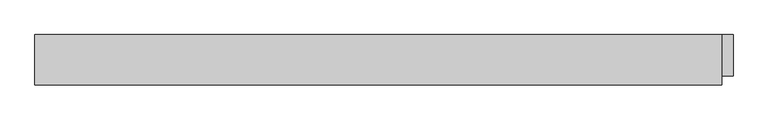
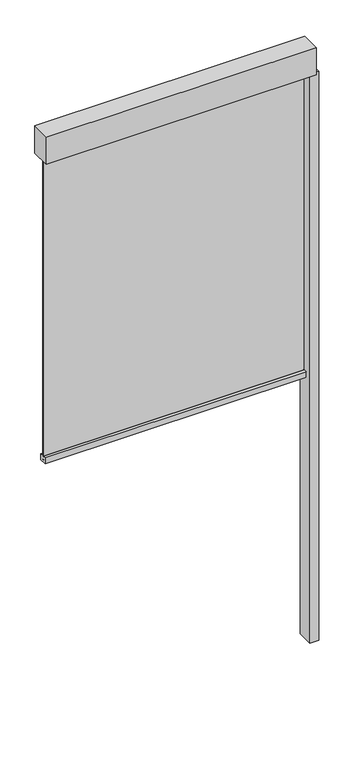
"""IFC4 building model written with IfcOpenShell, lengths in millimetres: proxy geometry, Renson_Fixscreen_Minimal_CW50_Middle : For curtain wall - Middle element - Access downwards - Fabric close to the window."""

import ifcopenshell
import ifcopenshell.guid

model = None  # the IFC model being written
_history = None  # IfcOwnerHistory: only IFC2X3 demands one
_inside = {}  # id of a spatial element -> (the spatial element, [elements in it])
_under = {}  # id of a project, library or spatial element -> (it, [spatial elements below it])
_declared = {}  # id of a project -> (the project, [libraries it declares])
_typed = {}  # id of a type object -> (the type object, [elements of that type])
_made_of = {}  # id of a material, layer set ... -> (it, [elements and type objects made of it])


def new_model(schema):
    """Start an empty IFC model of exactly this schema.

    Asked for "IFC4X3", IfcOpenShell would pick the latest addendum, in which some entities
    have other attributes; the version numbers below select the first issue.
    IFC2X3 requires an IfcOwnerHistory on every rooted entity: one is made here for all.
    """
    global model, _history
    if schema == "IFC4X3":
        model = ifcopenshell.file(schema_version=(4, 3, 0, 0))
    else:
        model = ifcopenshell.file(schema=schema)
    _inside.clear()
    _under.clear()
    _declared.clear()
    _typed.clear()
    _made_of.clear()
    _history = None
    if model.schema == "IFC2X3":
        org = make("IfcOrganization", Name="unknown")
        user = make(
            "IfcPersonAndOrganization",
            ThePerson=make("IfcPerson", FamilyName="unknown"),
            TheOrganization=org,
        )
        app = make(
            "IfcApplication",
            ApplicationDeveloper=org,
            Version="unknown",
            ApplicationFullName="unknown",
            ApplicationIdentifier="unknown",
        )
        _history = make(
            "IfcOwnerHistory",
            OwningUser=user,
            OwningApplication=app,
            ChangeAction="ADDED",
            CreationDate=0,
        )
    return model


def make(cls, **values):
    """One entity of the class cls with the attributes given. An attribute that is None is left unset."""
    return model.create_entity(
        cls, **{name: value for name, value in values.items() if value is not None}
    )


def rooted(cls, **values):
    """An entity with a GlobalId (a new one), such as an element, a storey or a relation."""
    return make(cls, GlobalId=ifcopenshell.guid.new(), OwnerHistory=_history, **values)


def si_unit(unit_type, name, prefix=None):
    """IfcSIUnit, for example si_unit("LENGTHUNIT", "METRE", prefix="MILLI")."""
    return make("IfcSIUnit", UnitType=unit_type, Prefix=prefix, Name=name)


def assignment(units):
    """IfcUnitAssignment: the units of a project."""
    return None if units is None else make("IfcUnitAssignment", Units=units)


def point(xyz):
    """IfcCartesianPoint."""
    return None if xyz is None else make("IfcCartesianPoint", Coordinates=xyz)


def direction(xyz):
    """IfcDirection."""
    return None if xyz is None else make("IfcDirection", DirectionRatios=xyz)


def frame(location, z_axis=None, x_axis=None):
    """IfcAxis2Placement3D, a coordinate frame: its origin and axes. An axis left out is left unset."""
    return make(
        "IfcAxis2Placement3D",
        Location=point(location),
        Axis=direction(z_axis),
        RefDirection=direction(x_axis),
    )


def frame_2d(location, x_axis=None):
    """IfcAxis2Placement2D, a coordinate frame in the plane: its origin and x axis."""
    return make(
        "IfcAxis2Placement2D", Location=point(location), RefDirection=direction(x_axis)
    )


def origin():
    """The frame at (0, 0, 0) with its axes left unset."""
    return frame((0.0, 0.0, 0.0))


def origin_with_axes():
    """The frame at (0, 0, 0) with the z axis (0, 0, 1) and the x axis (1, 0, 0) written out."""
    return frame((0.0, 0.0, 0.0), z_axis=(0.0, 0.0, 1.0), x_axis=(1.0, 0.0, 0.0))


def place(relative_to, where):
    """IfcLocalPlacement: puts the frame where relative to a parent placement (None: the world)."""
    return make(
        "IfcLocalPlacement", PlacementRelTo=relative_to, RelativePlacement=where
    )


def context(
    kind, dimensions, precision=None, world=None, true_north=None, identifier=None
):
    """IfcGeometricRepresentationContext, for example the 3D "Model" context."""
    return make(
        "IfcGeometricRepresentationContext",
        ContextIdentifier=identifier,
        ContextType=kind,
        CoordinateSpaceDimension=dimensions,
        Precision=precision,
        WorldCoordinateSystem=world,
        TrueNorth=true_north,
    )


def project(units=None, contexts=None):
    """IfcProject with its units and contexts."""
    return rooted(
        "IfcProject",
        Name="project",
        RepresentationContexts=contexts,
        UnitsInContext=assignment(units),
    )


def spatial(cls, under=None, at=None, **own):
    """A site, building, storey or space (cls), placed at a placement, below another one or the project."""
    s = rooted(cls, ObjectPlacement=at, **own)
    if under is not None:
        _under.setdefault(under.id(), (under, []))[1].append(s)
    return s


def polyline(points):
    """IfcPolyline through the points."""
    return make("IfcPolyline", Points=[point(p) for p in points])


def circle_curve(where, radius):
    """IfcCircle in the frame where."""
    return make("IfcCircle", Position=where, Radius=radius)


def trimmed(basis, trim1, trim2, sense, master):
    """IfcTrimmedCurve: the piece of a basis curve between two trims."""
    return make(
        "IfcTrimmedCurve",
        BasisCurve=basis,
        Trim1=trim1,
        Trim2=trim2,
        SenseAgreement=sense,
        MasterRepresentation=master,
    )


def segment(curve, same_sense, transition):
    """IfcCompositeCurveSegment."""
    return make(
        "IfcCompositeCurveSegment",
        Transition=transition,
        SameSense=same_sense,
        ParentCurve=curve,
    )


def composite_curve(segments, self_intersect=None):
    """IfcCompositeCurve: segments joined end to end."""
    return make("IfcCompositeCurve", Segments=segments, SelfIntersect=self_intersect)


def outline(outer, holes=None, kind="AREA"):
    """IfcArbitraryClosedProfileDef: a profile drawn as a closed curve; with holes, ...WithVoids."""
    if holes is None:
        return make("IfcArbitraryClosedProfileDef", ProfileType=kind, OuterCurve=outer)
    return make(
        "IfcArbitraryProfileDefWithVoids",
        ProfileType=kind,
        OuterCurve=outer,
        InnerCurves=holes,
    )


def extrude(swept, where, along, depth):
    """IfcExtrudedAreaSolid: the profile swept, set in the frame where, extruded along a direction by depth."""
    return make(
        "IfcExtrudedAreaSolid",
        SweptArea=swept,
        Position=where,
        ExtrudedDirection=direction(along),
        Depth=depth,
    )


def shape(context_of_items, identifier, shape_type, items):
    """IfcShapeRepresentation: the items that make up one representation, for example the "Body"."""
    return make(
        "IfcShapeRepresentation",
        ContextOfItems=context_of_items,
        RepresentationIdentifier=identifier,
        RepresentationType=shape_type,
        Items=items,
    )


def source(mapping_origin, context_of_items, identifier, shape_type, items):
    """IfcRepresentationMap: a shape defined once, which mapped items show again and again."""
    return make(
        "IfcRepresentationMap",
        MappingOrigin=mapping_origin,
        MappedRepresentation=shape(context_of_items, identifier, shape_type, items),
    )


def transform(
    local_origin,
    x_axis=None,
    y_axis=None,
    z_axis=None,
    scale=None,
    scale2=None,
    scale3=None,
    uniform=True,
):
    """IfcCartesianTransformationOperator3D, or its non-uniform kind. x_axis, y_axis, z_axis: its Axis1, 2, 3."""
    if uniform:
        return make(
            "IfcCartesianTransformationOperator3D",
            Axis1=direction(x_axis),
            Axis2=direction(y_axis),
            LocalOrigin=point(local_origin),
            Scale=scale,
            Axis3=direction(z_axis),
        )
    return make(
        "IfcCartesianTransformationOperator3DnonUniform",
        Axis1=direction(x_axis),
        Axis2=direction(y_axis),
        LocalOrigin=point(local_origin),
        Scale=scale,
        Axis3=direction(z_axis),
        Scale2=scale2,
        Scale3=scale3,
    )


def mapped(mapping_source, mapping_target):
    """IfcMappedItem: shows the shape of a source again, moved by a transform."""
    return make(
        "IfcMappedItem", MappingSource=mapping_source, MappingTarget=mapping_target
    )


def made_of(thing, what):
    """Note that an element or type object is made of a material, layer set ...; save() writes the relation."""
    if what is not None:
        _made_of.setdefault(what.id(), (what, []))[1].append(thing)
    return thing


def element(
    cls,
    number,
    at=None,
    inside=None,
    cuts=None,
    type_object=None,
    material=None,
    context=None,
    identifier="Body",
    shape_type=None,
    held_by="IfcProductDefinitionShape",
    body=None,
    shapes=None,
    **own,
):
    """One element of the class cls, such as IfcWall. Its Tag is "e" and its number.

    at: its placement. inside: the storey or other place that contains it. cuts: it is an
    opening in that element (IfcRelVoidsElement). A single representation is given by context,
    identifier, shape_type and body (its items); several are given by shapes. held_by: the class
    of the entity that holds the representations. save() writes the other relations.
    """
    e = rooted(cls, Tag="e%d" % number, ObjectPlacement=at, **own)
    if body is not None:
        shapes = [shape(context, identifier, shape_type, body)]
    if shapes is not None:
        e.Representation = make(held_by, Representations=shapes)
    if inside is not None:
        _inside.setdefault(inside.id(), (inside, []))[1].append(e)
    if cuts is not None:
        rooted(
            "IfcRelVoidsElement", RelatingBuildingElement=cuts, RelatedOpeningElement=e
        )
    if type_object is not None:
        _typed.setdefault(type_object.id(), (type_object, []))[1].append(e)
    return made_of(e, material)


def aggregate(whole, parts):
    """IfcRelAggregates: a whole, such as a stair, and the parts it consists of."""
    return rooted("IfcRelAggregates", RelatingObject=whole, RelatedObjects=parts)


def save(model, path):
    """Write the relations noted so far, then the file.

    IfcRelAggregates (storeys below a building ...), IfcRelContainedInSpatialStructure (elements
    in a storey), IfcRelDefinesByType, IfcRelAssociatesMaterial and IfcRelDeclares: one each for
    every whole, place, type object, material and project.
    """
    for whole, parts in _under.values():
        aggregate(whole, parts)
    for where, things in _inside.values():
        rooted(
            "IfcRelContainedInSpatialStructure",
            RelatedElements=things,
            RelatingStructure=where,
        )
    for kind, things in _typed.values():
        rooted("IfcRelDefinesByType", RelatedObjects=things, RelatingType=kind)
    for what, things in _made_of.values():
        rooted("IfcRelAssociatesMaterial", RelatedObjects=things, RelatingMaterial=what)
    for by, libraries in _declared.values():
        rooted("IfcRelDeclares", RelatingContext=by, RelatedDefinitions=libraries)
    model.write(path)


def generic_models_6516fcb3(model_context):
    return source(origin(), model_context, "Body", "SweptSolid", [
        extrude(outline(polyline([(530.0, -783.5959909), (480.0, -783.5959909), (480.0, -693.5959909), (530.0, -693.5959909), (530.0, -783.5959909)])), origin_with_axes(), (0.0, 0.0, 1.0), 3340.0),
        extrude(outline(polyline([(-995.0, -693.5959909), (505.0, -693.5959909), (505.0, -803.5959909), (-995.0, -803.5959909), (-995.0, -693.5959909)])), frame((0.0, 0.0, 3340.0), z_axis=(0.0, 0.0, 1.0), x_axis=(1.0, 0.0, 0.0)), (0.0, 0.0, 1.0), 160.0),
        extrude(outline(composite_curve([segment(polyline([(-708.5959909, 1540.0), (-749.0958874, 1540.0), (-749.0958874, 1574.1156826), (-731.9717779, 1575.0000198)]), True, "CONTINUOUS"), segment(trimmed(circle_curve(frame_2d((-731.9459909, 1574.5006852)), 0.5), [point((-731.9717779, 1575.0000198))], [point((-731.4459909, 1574.5006852))], False, "CARTESIAN"), True, "CONTINUOUS"), segment(polyline([(-731.4459909, 1574.5006852), (-731.4459909, 1573.5367989), (-732.7111292, 1573.5367989), (-731.9708257, 1569.0119223)]), True, "CONTINUOUS"), segment(trimmed(circle_curve(frame_2d((-771.4459909, 1562.5534911)), 40.0), [point((-731.9708257, 1569.0119223))], [point((-731.4459909, 1562.5534911))], False, "CARTESIAN"), True, "CONTINUOUS"), segment(polyline([(-731.4459909, 1562.5534911), (-731.4459909, 1554.5006852)]), True, "CONTINUOUS"), segment(trimmed(circle_curve(frame_2d((-729.4459909, 1554.5006852)), 2.0), [point((-731.4459909, 1554.5006852))], [point((-729.4459909, 1552.5006852))], True, "CARTESIAN"), True, "CONTINUOUS"), segment(polyline([(-729.4459909, 1552.5006852), (-727.7459909, 1552.5006852)]), True, "CONTINUOUS"), segment(trimmed(circle_curve(frame_2d((-727.7459909, 1554.5006852)), 2.0), [point((-727.7459909, 1552.5006852))], [point((-725.7459909, 1554.5006852))], True, "CARTESIAN"), True, "CONTINUOUS"), segment(polyline([(-725.7459909, 1554.5006852), (-725.7459909, 1562.5534911)]), True, "CONTINUOUS"), segment(trimmed(circle_curve(frame_2d((-685.7459909, 1562.5534911)), 40.0), [point((-725.7459909, 1562.5534911))], [point((-725.221156, 1569.0119223))], False, "CARTESIAN"), True, "CONTINUOUS"), segment(polyline([(-725.221156, 1569.0119223), (-724.4808525, 1573.5367989), (-725.7459909, 1573.5367989), (-725.7459909, 1574.5006852)]), True, "CONTINUOUS"), segment(trimmed(circle_curve(frame_2d((-725.2459909, 1574.5006852)), 0.5), [point((-725.7459909, 1574.5006852))], [point((-725.2194276, 1574.9999791))], False, "CARTESIAN"), True, "CONTINUOUS"), segment(polyline([(-725.2194276, 1574.9999791), (-708.5959909, 1574.1156826), (-708.5959909, 1540.0)]), True, "CONTINUOUS")], self_intersect=False)), frame((-970.0, 0.0, 0.0), z_axis=(1.0, 0.0, 0.0), x_axis=(0.0, 1.0, 0.0)), (0.0, 0.0, 1.0), 1450.0),
        extrude(outline(polyline([(-970.0, -730.0959909), (-970.0, -727.0959909), (480.0, -727.0959909), (480.0, -730.0959909), (-970.0, -730.0959909)])), frame((0.0, 0.0, 1552.5006852), z_axis=(0.0, 0.0, 1.0), x_axis=(1.0, 0.0, 0.0)), (0.0, 0.0, 1.0), 1787.4993148),
    ])


if __name__ == "__main__":
    model = new_model("IFC4")
    model_context = context("Model", 3, world=origin())
    ifc_project = project(units=[si_unit("LENGTHUNIT", "METRE", prefix="MILLI")], contexts=[model_context])
    site = spatial("IfcSite", under=ifc_project)
    building = spatial("IfcBuilding", under=site)
    placement = place(None, origin())
    generic_models_shape = generic_models_6516fcb3(model_context)
    element("IfcBuildingElementProxy", 1, Name="Renson_Fixscreen_Minimal_CW50_Middle : For curtain wall - Middle element - Access downwards - Fabric close to the window", ObjectType="Renson_Fixscreen_Minimal_CW50_Middle : For curtain wall - Middle element - Access downwards - Fabric close to the window", at=placement, inside=building, context=model_context, shape_type="MappedRepresentation", body=[
        mapped(generic_models_shape, transform((0.0, 0.0, 0.0), x_axis=(1.0, 0.0, 0.0), y_axis=(0.0, 1.0, 0.0), z_axis=(0.0, 0.0, 1.0))),
    ])
    save(model, "model.ifc")
